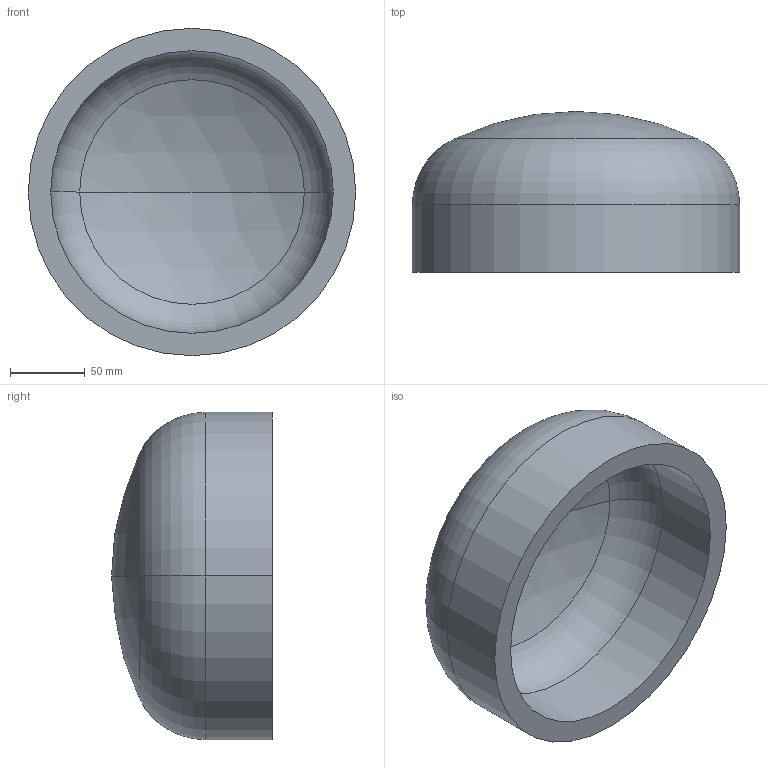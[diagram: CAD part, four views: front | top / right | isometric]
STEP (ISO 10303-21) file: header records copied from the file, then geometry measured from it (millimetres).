
FILE_DESCRIPTION (( 'STEP AP203' ), '1' );
FILE_NAME ('DIN 28013 Korbbogenform_-_Boden DIN 28013 - 219,1 x 45 - I - s=15.step', '2016-07-01T07:42:31', ( '' ), ( '' ), 'SwSTEP 2.0', 'SolidWorks 2013', '' );
FILE_SCHEMA (( 'CONFIG_CONTROL_DESIGN' ));
Length unit declared in the file: millimetre
Products named in the file (1): DIN 28013 Korbbogenform_-_Boden DIN 28013 - 219,1 x 45 - I - s=15
Bounding box: 219.1 x 107.66 x 219.1 mm (x, y, z)
Volume: 1152231.4 mm3; surface area: 163720.1 mm2
Topology: 1 solids, 1 shells, 13 faces, 24 edges, 14 vertices
Faces by surface type: torus 4, cylinder 4, sphere 4, plane 1
Entity records: 407 total; most frequent: DIRECTION 72, CARTESIAN_POINT 52, ORIENTED_EDGE 48, AXIS2_PLACEMENT_3D 34, EDGE_CURVE 24, CIRCLE 20, VERTEX_POINT 14, EDGE_LOOP 14
